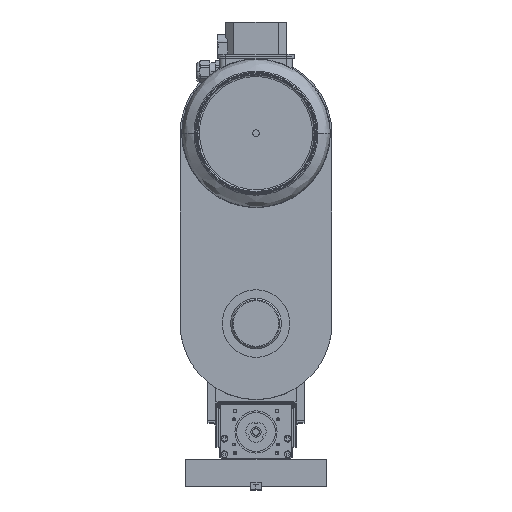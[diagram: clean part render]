
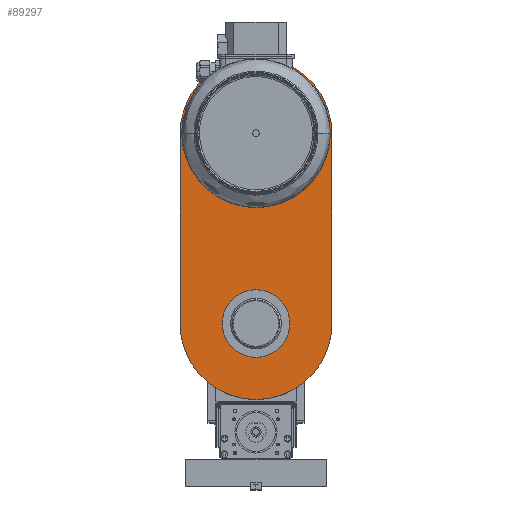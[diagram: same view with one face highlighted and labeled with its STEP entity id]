
A CAD part, top view. The second image highlights one B-rep face of the part: STEP entity #89297.
In plain terms, the highlighted planar face has unit normal (0, 0, 1).
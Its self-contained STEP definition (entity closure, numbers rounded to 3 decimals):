
#136 = CARTESIAN_POINT ( 'NONE',  ( -112.5, -90., 100. ) ) ;
#2987 = CARTESIAN_POINT ( 'NONE',  ( -112.5, 0., 100. ) ) ;
#3996 = DIRECTION ( 'NONE',  ( 1., 0., 0. ) ) ;
#4918 = DIRECTION ( 'NONE',  ( 1., 0., 0. ) ) ;
#5446 = AXIS2_PLACEMENT_3D ( 'NONE', #2987, #16470, #52931 ) ;
#5490 = CARTESIAN_POINT ( 'NONE',  ( 112.5, 0., 100. ) ) ;
#7241 = DIRECTION ( 'NONE',  ( -1., 0., 0. ) ) ;
#8931 = DIRECTION ( 'NONE',  ( 1., 0., 0. ) ) ;
#8992 = AXIS2_PLACEMENT_3D ( 'NONE', #18658, #11779, #4918 ) ;
#10349 = LINE ( 'NONE', #35877, #15925 ) ;
#10547 = CARTESIAN_POINT ( 'NONE',  ( -202.5, 0., 100. ) ) ;
#11487 = PLANE ( 'NONE',  #16643 ) ;
#11779 = DIRECTION ( 'NONE',  ( 0., 0., 1. ) ) ;
#12556 = CIRCLE ( 'NONE', #80073, 90. ) ;
#12573 = CARTESIAN_POINT ( 'NONE',  ( 112.5, 90., 100. ) ) ;
#15045 = ORIENTED_EDGE ( 'NONE', *, *, #42467, .F. ) ;
#15925 = VECTOR ( 'NONE', #57486, 1000. ) ;
#16022 = CIRCLE ( 'NONE', #5446, 60. ) ;
#16470 = DIRECTION ( 'NONE',  ( 0., 0., 1. ) ) ;
#16643 = AXIS2_PLACEMENT_3D ( 'NONE', #38922, #75550, #3996 ) ;
#18658 = CARTESIAN_POINT ( 'NONE',  ( 112.5, 0., 100. ) ) ;
#18802 = EDGE_LOOP ( 'NONE', ( #44826, #67020 ) ) ;
#19264 = CIRCLE ( 'NONE', #30835, 90. ) ;
#20854 = VERTEX_POINT ( 'NONE', #43650 ) ;
#22434 = ORIENTED_EDGE ( 'NONE', *, *, #27846, .F. ) ;
#23904 = VERTEX_POINT ( 'NONE', #30902 ) ;
#24288 = VECTOR ( 'NONE', #7241, 1000. ) ;
#27846 = EDGE_CURVE ( 'NONE', #73171, #20854, #16022, .T. ) ;
#30053 = FACE_OUTER_BOUND ( 'NONE', #32128, .T. ) ;
#30771 = CIRCLE ( 'NONE', #61731, 30. ) ;
#30835 = AXIS2_PLACEMENT_3D ( 'NONE', #37309, #51420, #8931 ) ;
#30902 = CARTESIAN_POINT ( 'NONE',  ( 82.5, 0., 100. ) ) ;
#32128 = EDGE_LOOP ( 'NONE', ( #87621, #58000, #36114, #43435, #85175 ) ) ;
#34552 = FACE_BOUND ( 'NONE', #90227, .T. ) ;
#35877 = CARTESIAN_POINT ( 'NONE',  ( -112.5, -90., 100. ) ) ;
#36114 = ORIENTED_EDGE ( 'NONE', *, *, #67518, .T. ) ;
#37309 = CARTESIAN_POINT ( 'NONE',  ( -112.5, 0., 100. ) ) ;
#38922 = CARTESIAN_POINT ( 'NONE',  ( -112.5, 0., 100. ) ) ;
#39751 = VERTEX_POINT ( 'NONE', #55467 ) ;
#39791 = DIRECTION ( 'NONE',  ( 0., 0., 1. ) ) ;
#42467 = EDGE_CURVE ( 'NONE', #20854, #73171, #53055, .T. ) ;
#43435 = ORIENTED_EDGE ( 'NONE', *, *, #81323, .T. ) ;
#43480 = FACE_BOUND ( 'NONE', #18802, .T. ) ;
#43650 = CARTESIAN_POINT ( 'NONE',  ( -172.5, 0., 100. ) ) ;
#44210 = CARTESIAN_POINT ( 'NONE',  ( 142.5, 0., 100. ) ) ;
#44826 = ORIENTED_EDGE ( 'NONE', *, *, #82251, .F. ) ;
#46647 = LINE ( 'NONE', #92647, #24288 ) ;
#46714 = DIRECTION ( 'NONE',  ( 1., 0., 0. ) ) ;
#47415 = CARTESIAN_POINT ( 'NONE',  ( -52.5, 0., 100. ) ) ;
#47656 = CARTESIAN_POINT ( 'NONE',  ( -112.5, 0., 100. ) ) ;
#47776 = VERTEX_POINT ( 'NONE', #10547 ) ;
#47972 = DIRECTION ( 'NONE',  ( 1., 0., 0. ) ) ;
#51420 = DIRECTION ( 'NONE',  ( 0., 0., 1. ) ) ;
#52327 = CARTESIAN_POINT ( 'NONE',  ( -112.5, 0., 100. ) ) ;
#52931 = DIRECTION ( 'NONE',  ( 1., 0., 0. ) ) ;
#53055 = CIRCLE ( 'NONE', #76862, 60. ) ;
#55467 = CARTESIAN_POINT ( 'NONE',  ( 112.5, -90., 100. ) ) ;
#55647 = VERTEX_POINT ( 'NONE', #136 ) ;
#57486 = DIRECTION ( 'NONE',  ( 1., 0., 0. ) ) ;
#58000 = ORIENTED_EDGE ( 'NONE', *, *, #87825, .T. ) ;
#60641 = VERTEX_POINT ( 'NONE', #12573 ) ;
#61731 = AXIS2_PLACEMENT_3D ( 'NONE', #89065, #74562, #88117 ) ;
#61986 = EDGE_CURVE ( 'NONE', #60641, #86883, #46647, .T. ) ;
#65500 = DIRECTION ( 'NONE',  ( 0., 0., 1. ) ) ;
#67020 = ORIENTED_EDGE ( 'NONE', *, *, #70524, .F. ) ;
#67518 = EDGE_CURVE ( 'NONE', #55647, #39751, #10349, .T. ) ;
#70524 = EDGE_CURVE ( 'NONE', #23904, #77245, #30771, .T. ) ;
#73171 = VERTEX_POINT ( 'NONE', #47415 ) ;
#74562 = DIRECTION ( 'NONE',  ( 0., 0., 1. ) ) ;
#75480 = DIRECTION ( 'NONE',  ( 0., 0., 1. ) ) ;
#75550 = DIRECTION ( 'NONE',  ( 0., 0., 1. ) ) ;
#76862 = AXIS2_PLACEMENT_3D ( 'NONE', #52327, #65500, #46714 ) ;
#77245 = VERTEX_POINT ( 'NONE', #44210 ) ;
#80073 = AXIS2_PLACEMENT_3D ( 'NONE', #47656, #39791, #47972 ) ;
#81323 = EDGE_CURVE ( 'NONE', #39751, #60641, #91775, .T. ) ;
#81728 = CARTESIAN_POINT ( 'NONE',  ( -112.5, 90., 100. ) ) ;
#82251 = EDGE_CURVE ( 'NONE', #77245, #23904, #91485, .T. ) ;
#83098 = DIRECTION ( 'NONE',  ( 1., 0., 0. ) ) ;
#85175 = ORIENTED_EDGE ( 'NONE', *, *, #61986, .T. ) ;
#86883 = VERTEX_POINT ( 'NONE', #81728 ) ;
#87621 = ORIENTED_EDGE ( 'NONE', *, *, #88071, .T. ) ;
#87825 = EDGE_CURVE ( 'NONE', #47776, #55647, #19264, .T. ) ;
#88071 = EDGE_CURVE ( 'NONE', #86883, #47776, #12556, .T. ) ;
#88117 = DIRECTION ( 'NONE',  ( 1., 0., 0. ) ) ;
#89065 = CARTESIAN_POINT ( 'NONE',  ( 112.5, 0., 100. ) ) ;
#89297 = ADVANCED_FACE ( 'NONE', ( #43480, #34552, #30053 ), #11487, .T. ) ;
#89892 = AXIS2_PLACEMENT_3D ( 'NONE', #5490, #75480, #83098 ) ;
#90227 = EDGE_LOOP ( 'NONE', ( #22434, #15045 ) ) ;
#91485 = CIRCLE ( 'NONE', #8992, 30. ) ;
#91775 = CIRCLE ( 'NONE', #89892, 90. ) ;
#92647 = CARTESIAN_POINT ( 'NONE',  ( -112.5, 90., 100. ) ) ;
